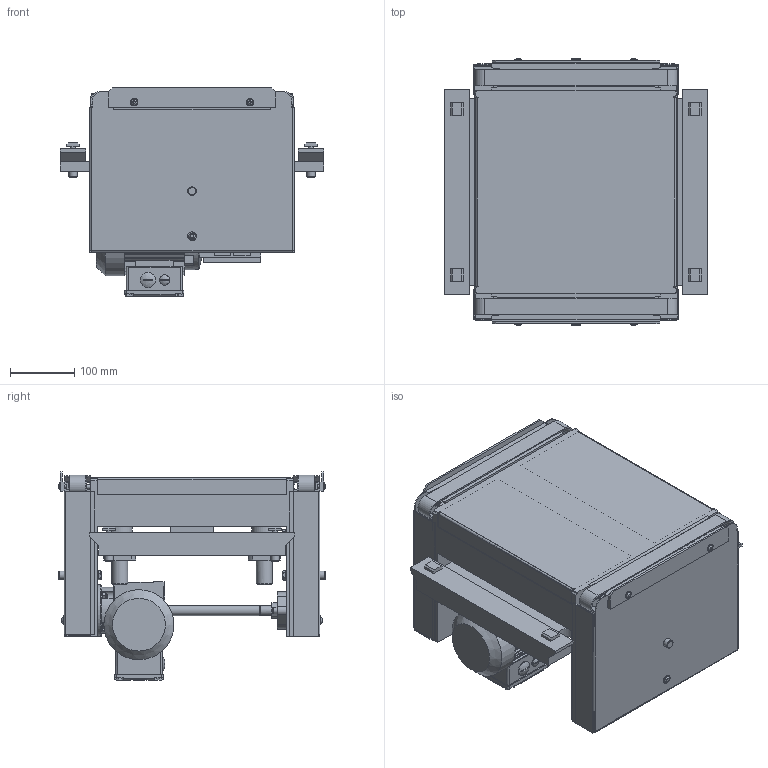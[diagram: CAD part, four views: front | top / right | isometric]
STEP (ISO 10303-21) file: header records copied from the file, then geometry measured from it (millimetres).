
FILE_DESCRIPTION(/* description */ (''),/* implementation_level */ '2;1');
FILE_NAME(/* name */ 'C:\Marketing\01_Versamove-SPU_STEP-Dateien-Homepage\VersamoveStandard\B400\STEP-Dateien\Hub-Querförderer_HQZ-2045_B400.stp',/* time_stamp */ '2016-12-21T11:09:43+01:00',/* author */ ('herbert.engels'),/* organization */ (''),/* preprocessor_version */ 'ST-DEVELOPER v15.6',/* originating_system */ 'Autodesk Inventor 2015',/* authorisation */ '');
FILE_SCHEMA (('CONFIG_CONTROL_DESIGN'));
Products named in the file (1): Hub-Querförderer_HQZ-2045_B400
Bounding box: 410 x 415.5 x 323.48 mm (x, y, z)
Volume: 8738440.7 mm3; surface area: 1882244.8 mm2
Topology: 4 solids, 4 shells, 2063 faces, 5742 edges, 3733 vertices
Faces by surface type: plane 1383, cylinder 572, cone 84, sphere 12, torus 12
Full cylindrical faces by diameter (mm): 5 x7, 6 x9, 6.5 x2, 8 x8, 10 x2, 11.4 x4, 11.8 x4, 12 x6, 13 x14, 13.5 x2, 13.6 x2, 14.3 x2, 15 x8, 15.2 x4, 16 x6, 23.9 x2, 24 x1, 25 x6, 25.127 x1, 26.5 x2, 29 x2, 30 x2, 31.873 x1, 33.223 x2, 38.158 x1, 39 x1, 40 x2, 50 x1, 80 x1, 109 x1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
Entity records: 67096 total; most frequent: CARTESIAN_POINT 12356, ORIENTED_EDGE 11006, DIRECTION 10767, EDGE_CURVE 5502, LINE 3803, VECTOR 3803, VERTEX_POINT 3661, AXIS2_PLACEMENT_3D 3482
